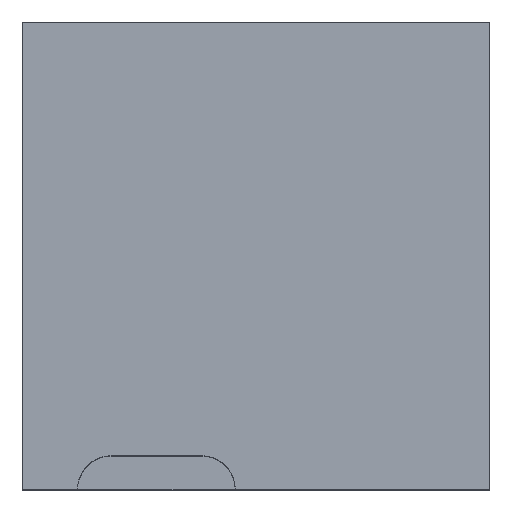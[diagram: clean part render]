
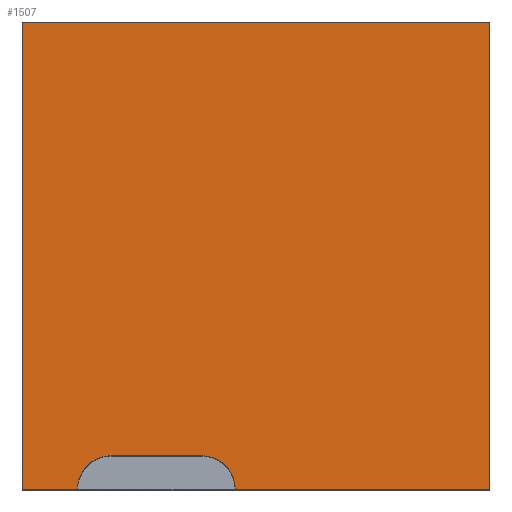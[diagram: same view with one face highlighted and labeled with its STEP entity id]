
A CAD part, top view. The second image highlights one B-rep face of the part: STEP entity #1507.
In plain terms, the highlighted planar face has unit normal (0, 0, 1).
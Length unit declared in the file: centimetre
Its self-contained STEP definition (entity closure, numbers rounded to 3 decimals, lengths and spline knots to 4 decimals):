
#12 = CIRCLE ( 'NONE', #789, 71.5961 ) ;
#18 = CARTESIAN_POINT ( 'NONE',  ( 455.6486, 0., 1000. ) ) ;
#22 = VERTEX_POINT ( 'NONE', #937 ) ;
#48 = LINE ( 'NONE', #720, #750 ) ;
#97 = LINE ( 'NONE', #368, #1268 ) ;
#113 = DIRECTION ( 'NONE',  ( 0., -1., 0. ) ) ;
#122 = CARTESIAN_POINT ( 'NONE',  ( 118.0973, 0., 1000. ) ) ;
#137 = DIRECTION ( 'NONE',  ( 0., 0., 1. ) ) ;
#146 = EDGE_CURVE ( 'NONE', #562, #1308, #12, .T. ) ;
#156 = CARTESIAN_POINT ( 'NONE',  ( 0., 1000., 1000. ) ) ;
#187 = EDGE_CURVE ( 'NONE', #1437, #22, #439, .T. ) ;
#263 = VECTOR ( 'NONE', #1741, 100. ) ;
#268 = EDGE_CURVE ( 'NONE', #889, #1308, #97, .T. ) ;
#296 = ORIENTED_EDGE ( 'NONE', *, *, #1074, .T. ) ;
#301 = FACE_OUTER_BOUND ( 'NONE', #1565, .T. ) ;
#315 = DIRECTION ( 'NONE',  ( 1., 0., 0. ) ) ;
#343 = DIRECTION ( 'NONE',  ( -1., 0., 0. ) ) ;
#368 = CARTESIAN_POINT ( 'NONE',  ( 0., 0., 1000. ) ) ;
#369 = ORIENTED_EDGE ( 'NONE', *, *, #1247, .F. ) ;
#401 = CARTESIAN_POINT ( 'NONE',  ( 189.6934, 71.5961, 1000. ) ) ;
#435 = ORIENTED_EDGE ( 'NONE', *, *, #187, .T. ) ;
#439 = LINE ( 'NONE', #987, #1408 ) ;
#458 = CARTESIAN_POINT ( 'NONE',  ( 189.6934, 0., 1000. ) ) ;
#470 = ORIENTED_EDGE ( 'NONE', *, *, #268, .T. ) ;
#562 = VERTEX_POINT ( 'NONE', #401 ) ;
#607 = EDGE_CURVE ( 'NONE', #1271, #732, #1485, .T. ) ;
#619 = DIRECTION ( 'NONE',  ( 1., 0., 0. ) ) ;
#693 = CARTESIAN_POINT ( 'NONE',  ( 0., 1000., 1000. ) ) ;
#720 = CARTESIAN_POINT ( 'NONE',  ( 1000., 1000., 1000. ) ) ;
#732 = VERTEX_POINT ( 'NONE', #156 ) ;
#750 = VECTOR ( 'NONE', #879, 100. ) ;
#789 = AXIS2_PLACEMENT_3D ( 'NONE', #458, #137, #1629 ) ;
#793 = CARTESIAN_POINT ( 'NONE',  ( 1000., 1000., 1000. ) ) ;
#797 = ORIENTED_EDGE ( 'NONE', *, *, #1376, .T. ) ;
#840 = VECTOR ( 'NONE', #343, 100. ) ;
#859 = PLANE ( 'NONE',  #1006 ) ;
#874 = AXIS2_PLACEMENT_3D ( 'NONE', #1333, #1303, #619 ) ;
#879 = DIRECTION ( 'NONE',  ( 0., 1., 0. ) ) ;
#889 = VERTEX_POINT ( 'NONE', #1287 ) ;
#937 = CARTESIAN_POINT ( 'NONE',  ( 1000., 0., 1000. ) ) ;
#977 = VERTEX_POINT ( 'NONE', #1207 ) ;
#987 = CARTESIAN_POINT ( 'NONE',  ( 0., 0., 1000. ) ) ;
#1006 = AXIS2_PLACEMENT_3D ( 'NONE', #1400, #1133, #1390 ) ;
#1074 = EDGE_CURVE ( 'NONE', #22, #1271, #48, .T. ) ;
#1133 = DIRECTION ( 'NONE',  ( 0., 0., 1. ) ) ;
#1183 = CARTESIAN_POINT ( 'NONE',  ( 0., 1000., 1000. ) ) ;
#1207 = CARTESIAN_POINT ( 'NONE',  ( 384.0525, 71.5961, 1000. ) ) ;
#1247 = EDGE_CURVE ( 'NONE', #977, #562, #1317, .T. ) ;
#1268 = VECTOR ( 'NONE', #1561, 100. ) ;
#1271 = VERTEX_POINT ( 'NONE', #793 ) ;
#1287 = CARTESIAN_POINT ( 'NONE',  ( 0., 0., 1000. ) ) ;
#1294 = ORIENTED_EDGE ( 'NONE', *, *, #607, .T. ) ;
#1302 = CIRCLE ( 'NONE', #874, 71.5961 ) ;
#1303 = DIRECTION ( 'NONE',  ( 0., 0., 1. ) ) ;
#1308 = VERTEX_POINT ( 'NONE', #122 ) ;
#1317 = LINE ( 'NONE', #1740, #840 ) ;
#1320 = ORIENTED_EDGE ( 'NONE', *, *, #1654, .F. ) ;
#1333 = CARTESIAN_POINT ( 'NONE',  ( 384.0525, 0., 1000. ) ) ;
#1376 = EDGE_CURVE ( 'NONE', #732, #889, #1445, .T. ) ;
#1390 = DIRECTION ( 'NONE',  ( 1., 0., 0. ) ) ;
#1400 = CARTESIAN_POINT ( 'NONE',  ( 0., 0., 1000. ) ) ;
#1408 = VECTOR ( 'NONE', #315, 100. ) ;
#1437 = VERTEX_POINT ( 'NONE', #18 ) ;
#1445 = LINE ( 'NONE', #1183, #1517 ) ;
#1485 = LINE ( 'NONE', #693, #263 ) ;
#1507 = ADVANCED_FACE ( 'NONE', ( #301 ), #859, .T. ) ;
#1517 = VECTOR ( 'NONE', #113, 100. ) ;
#1561 = DIRECTION ( 'NONE',  ( 1., 0., 0. ) ) ;
#1565 = EDGE_LOOP ( 'NONE', ( #1725, #369, #1320, #435, #296, #1294, #797, #470 ) ) ;
#1629 = DIRECTION ( 'NONE',  ( 1., 0., 0. ) ) ;
#1654 = EDGE_CURVE ( 'NONE', #1437, #977, #1302, .T. ) ;
#1725 = ORIENTED_EDGE ( 'NONE', *, *, #146, .F. ) ;
#1740 = CARTESIAN_POINT ( 'NONE',  ( 384.0525, 71.5961, 1000. ) ) ;
#1741 = DIRECTION ( 'NONE',  ( -1., 0., 0. ) ) ;
